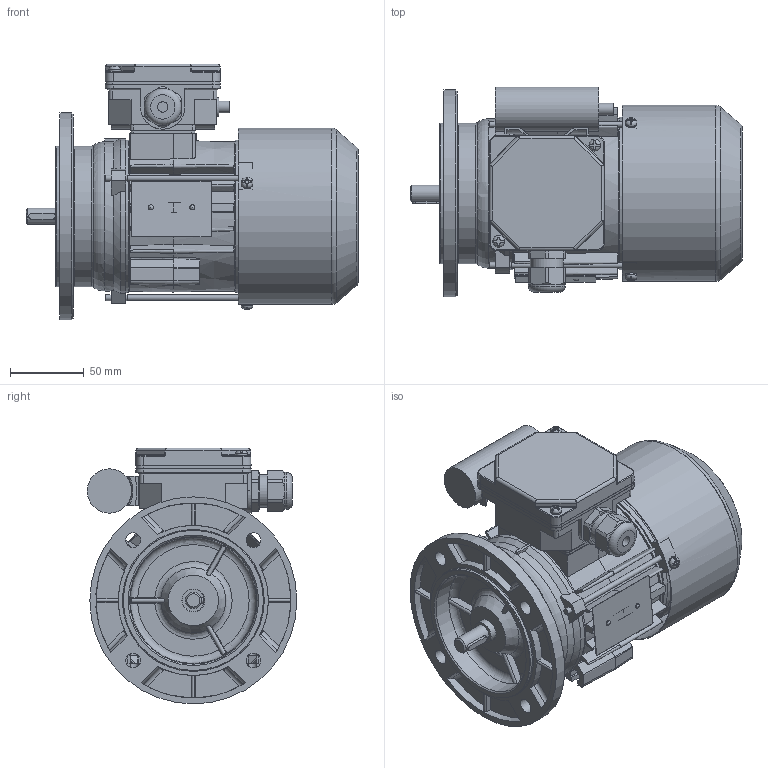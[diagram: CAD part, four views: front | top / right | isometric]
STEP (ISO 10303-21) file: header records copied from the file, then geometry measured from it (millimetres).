
FILE_DESCRIPTION(/* description */ ('Unknown'),/* implementation_level */ '2;1');
FILE_NAME(/* name */ '3SSIEK63-2B',/* time_stamp */ '2024-06-28T12:31:27+02:00',/* author */ ('Unknown'),/* organization */ ('Unknown'),/* preprocessor_version */ 'ST-DEVELOPER v16.7',/* originating_system */ 'Solid Edge',/* authorisation */ 'Unknown');
FILE_SCHEMA (('AUTOMOTIVE_DESIGN {1 0 10303 214 3 1 1}'));
Length unit declared in the file: millimetre
Products named in the file (1): Czêœæ20
Bounding box: 224.49 x 141.82 x 173 mm (x, y, z)
Volume: 585713.3 mm3; surface area: 348236.2 mm2
Topology: 3 solids, 3 shells, 1827 faces, 5124 edges, 3339 vertices
Faces by surface type: plane 945, cylinder 540, torus 116, cone 112, bspline 93, sphere 21
Full cylindrical faces by diameter (mm): 2.4 x2, 3 x1, 3.7 x7, 4 x8, 4.5 x5, 4.6 x1, 4.8 x2, 5 x2, 6.5 x1, 7 x4, 7.999 x1, 8 x6, 10 x4, 10.999 x1, 12.899 x1, 13.099 x1, 14.998 x2, 15.4 x2, 18.998 x2, 19.498 x1, 19.998 x1, 20.098 x1, 21.518 x4, 22.3 x1, 25 x1, 28 x2, 28.48 x4, 29.997 x1, 31 x2, 35 x3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
Entity records: 73371 total; most frequent: CARTESIAN_POINT 15385, ORIENTED_EDGE 9602, DIRECTION 9024, EDGE_CURVE 4801, AXIS2_PLACEMENT_3D 3320, VERTEX_POINT 3220, LINE 2384, VECTOR 2384
